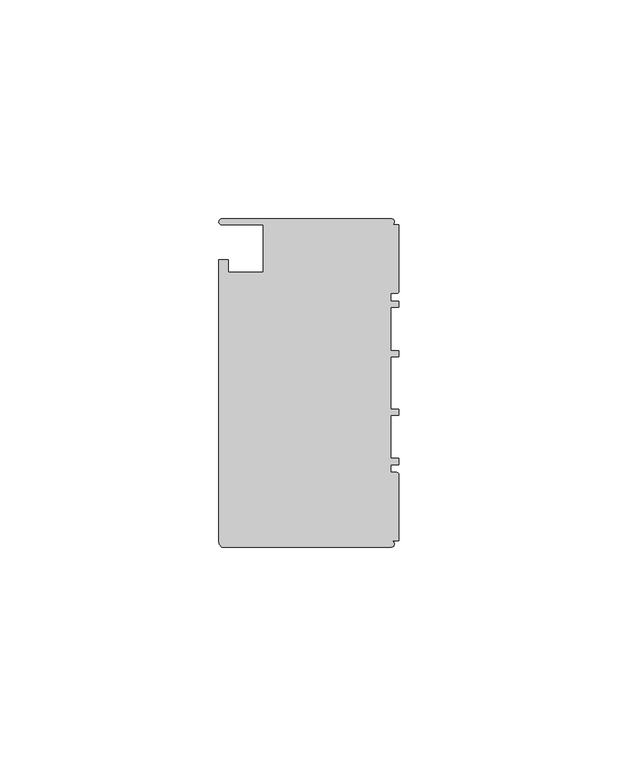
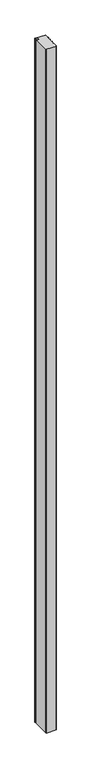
"""IFC4 building model written with IfcOpenShell, lengths in millimetres: member geometry, Прямоугольный импост : 1-AMG-1-Профиль 40Х75 Верх П."""

from ifc_helpers import new_model, si_unit, point, frame, frame_2d, origin, place, context, project, spatial, polyline, circle_curve, trimmed, segment, composite_curve, outline, extrude, source, transform, mapped, element, save


def member_112bad6c(model_context):
    return source(origin(), model_context, "Body", "SweptSolid", [
        extrude(outline(composite_curve([segment(polyline([(37.5, -1.7), (37.5, -40.4)]), True, "CONTINUOUS"), segment(trimmed(circle_curve(frame_2d((36.8, -40.4)), 0.7), [point((37.5, -40.4))], [point((36.1, -40.4))], False, "CARTESIAN"), True, "CONTINUOUS"), segment(polyline([(36.1, -40.4), (36.1, -31.0), (25.25, -31.0), (25.25, -39.0), (28.1, -39.0), (28.1, -41.1), (-36.1, -41.1)]), True, "CONTINUOUS"), segment(trimmed(circle_curve(frame_2d((-36.3020763, -39.7541527)), 1.3609334), [point((-36.1, -41.1))], [point((-37.5, -40.4))], False, "CARTESIAN"), True, "CONTINUOUS"), segment(polyline([(-37.5, -40.4), (-37.5, -1.7)]), True, "CONTINUOUS"), segment(trimmed(circle_curve(frame_2d((-36.8, -1.7)), 0.7), [point((-37.5, -1.7))], [point((-36.1, -1.7))], False, "CARTESIAN"), True, "CONTINUOUS"), segment(polyline([(-36.1, -1.7), (-36.1, 0.0), (-20.95, 0.0)]), True, "CONTINUOUS"), segment(trimmed(circle_curve(frame_2d((-20.95, -0.5)), 0.5), [point((-20.95, 0.0))], [point((-20.45, -0.5))], False, "CARTESIAN"), True, "CONTINUOUS"), segment(polyline([(-20.45, -0.5), (-20.45, -1.8), (-18.65, -1.8), (-18.65, 0.0), (-17.25, 0.0), (-17.25, -1.8), (-7.4, -1.8), (-7.4, 0.0), (-6.0, 0.0), (-6.0, -1.8), (6.0, -1.8), (6.0, 0.0), (7.4, 0.0), (7.4, -1.8), (17.25, -1.8), (17.25, 0.0), (18.65, 0.0), (18.65, -1.8), (20.45, -1.8), (20.45, -0.5)]), True, "CONTINUOUS"), segment(trimmed(circle_curve(frame_2d((20.95, -0.5)), 0.5), [point((20.45, -0.5))], [point((20.95, 0.0))], False, "CARTESIAN"), True, "CONTINUOUS"), segment(polyline([(20.95, 0.0), (36.1, 0.0), (36.1, -1.7)]), True, "CONTINUOUS"), segment(trimmed(circle_curve(frame_2d((36.8, -1.7)), 0.7), [point((36.1, -1.7))], [point((37.5, -1.7))], False, "CARTESIAN"), True, "CONTINUOUS")], self_intersect=False)), frame((0.0, 0.0, 0.0), z_axis=(0.0, 0.0, -1.0), x_axis=(0.0, 1.0, 0.0)), (0.0, 0.0, 1.0), 2800.0),
    ])


if __name__ == "__main__":
    model = new_model("IFC4")
    model_context = context("Model", 3, world=origin())
    ifc_project = project(units=[si_unit("LENGTHUNIT", "METRE", prefix="MILLI")], contexts=[model_context])
    site = spatial("IfcSite", under=ifc_project)
    building = spatial("IfcBuilding", under=site)
    placement = place(None, origin())
    member_shape = member_112bad6c(model_context)
    element("IfcMember", 1, ObjectType="Прямоугольный импост : 1-AMG-1-Профиль 40Х75 Верх П", at=placement, inside=building, context=model_context, shape_type="MappedRepresentation", body=[
        mapped(member_shape, transform((0.0, 0.0, 0.0), x_axis=(1.0, 0.0, 0.0), y_axis=(0.0, 1.0, 0.0), z_axis=(0.0, 0.0, 1.0))),
    ])
    save(model, "model.ifc")
